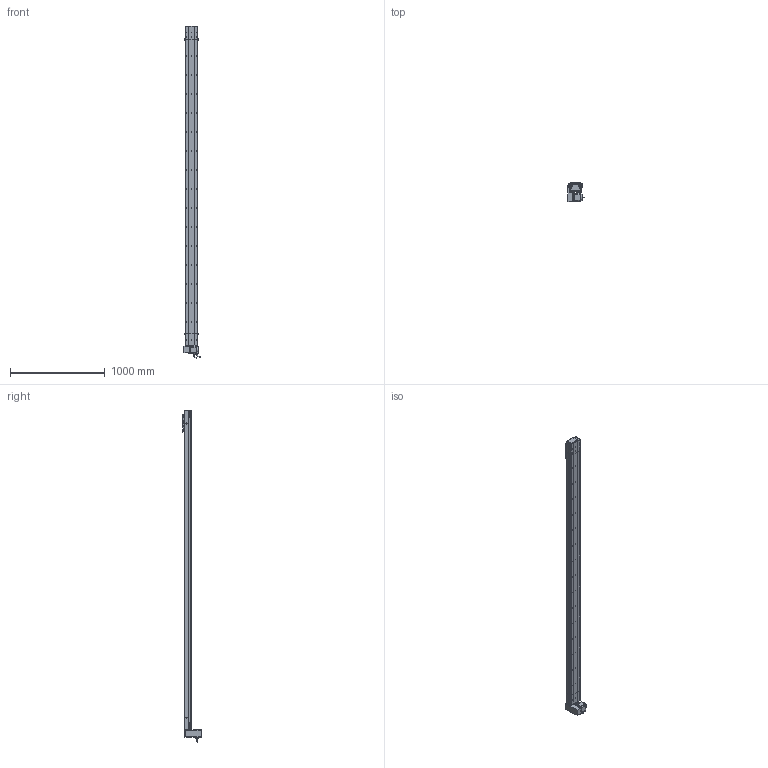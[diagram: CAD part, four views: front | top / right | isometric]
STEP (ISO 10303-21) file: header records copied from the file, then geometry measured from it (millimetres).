
FILE_DESCRIPTION (( 'STEP AP214' ), '1' );
FILE_NAME ('D14 CBH S3100 RU.STEP', '2010-06-30T07:46:50', ( 'Conseil Régional Haute-Normandie' ), ( 'Conseil Régional Haute-Normandie' ), 'SwSTEP 2.0', 'SolidWorks 2010', '' );
FILE_SCHEMA (( 'AUTOMOTIVE_DESIGN' ));
Length unit declared in the file: millimetre
Products named in the file (28): corps tail  CBH d14 A; plaque de bout tail CBH d14; charriot inférieur D14; chariot supérieur D14; vis CHC M5; couvercle tail CBH D14; GMB 90 70 310; avant GMB 90 70 310; Tail CBH D14 A; Course CBH S3100; corps CBH S3100; couvercle CBH S3100; D14 CBH S3100 RU; chariot D14; plaque de maintient CBH D14; plaque fermeture Head D14 CBH; couvercle Head D14 CBH; vis CHC M7; Vis CHC M8; Support moteur Head D14 CBH; Head D14 CBH RU; plaque de bout Head D14 CBH; corps Head D14 CBH; Head D14 CBH; Conecteur2_Default; codeur GMB 90 70 310; corps GMB 90 70 310; Conecteur_Default
Assembly tree (51 placements, depth 4):
  D14 CBH S3100 RU
    Course CBH S3100
      couvercle CBH S3100
      corps CBH S3100
    chariot D14
      vis CHC M7  x8
      vis CHC M5  x4
      charriot inférieur D14
      chariot supérieur D14
    Head D14 CBH RU
      plaque fermeture Head D14 CBH  x3
      Head D14 CBH
        vis CHC M7  x4
        corps Head D14 CBH
        Vis CHC M8  x2
        plaque de bout Head D14 CBH
        plaque de maintient CBH D14
        couvercle Head D14 CBH
      GMB 90 70 310
        Conecteur2_Default
        corps GMB 90 70 310
        avant GMB 90 70 310
        Conecteur_Default
        codeur GMB 90 70 310
      Support moteur Head D14 CBH
    Tail CBH D14 A
      couvercle tail CBH D14
      corps tail  CBH d14 A
      vis CHC M7  x4
      Vis CHC M8  x2
      plaque de maintient CBH D14
      plaque de bout tail CBH d14
Bounding box: 171.5 x 195.75 x 3495.95 mm (x, y, z)
Volume: 9272874.2 mm3; surface area: 3223794.3 mm2
Topology: 51 solids, 51 shells, 2528 faces, 6580 edges, 4320 vertices
Faces by surface type: plane 1371, bspline 538, cylinder 506, torus 61, cone 48, sphere 4
Entity records: 111901 total; most frequent: CARTESIAN_POINT 58606, ORIENTED_EDGE 11456, DIRECTION 8807, EDGE_CURVE 5728, VERTEX_POINT 3784, VECTOR 3749, LINE 3749, AXIS2_PLACEMENT_3D 2529
